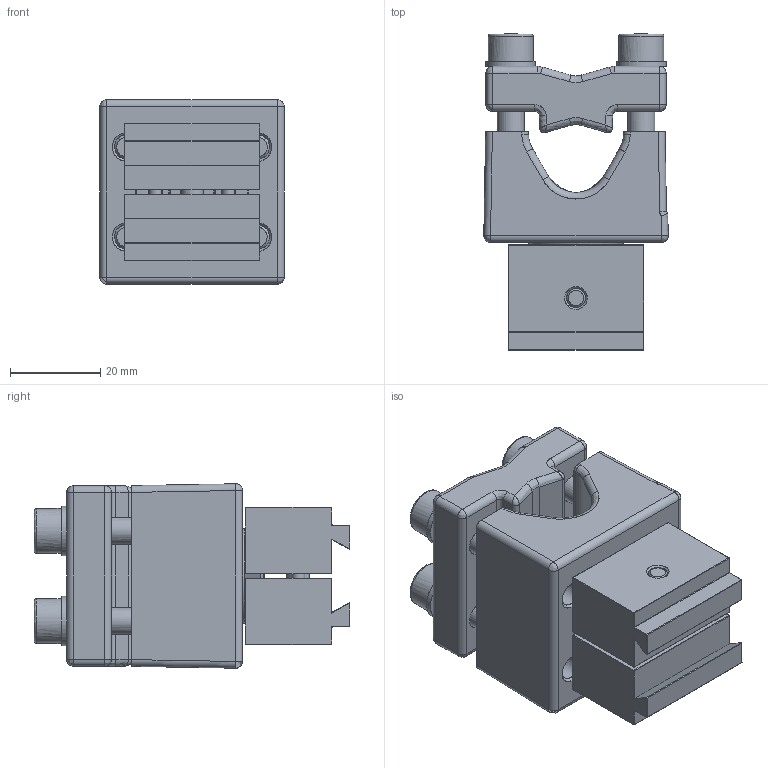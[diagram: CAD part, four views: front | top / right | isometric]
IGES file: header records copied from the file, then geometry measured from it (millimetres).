
Global section: file name: H:\lem\3DCAD_BT56_V.igs; native system: NX V11.0; preprocessor: SIEMENS PLM Software NX 11.0; date: 20200918.083303; units: millimetre
Bounding box: 40.96 x 70.15 x 40.96 mm (x, y, z)
Surface area: 27502.9 mm2 (no closed solid volume)
Topology: 0 solids, 0 shells, 445 faces, 2569 edges, 2425 vertices
Faces by surface type: bspline 445
